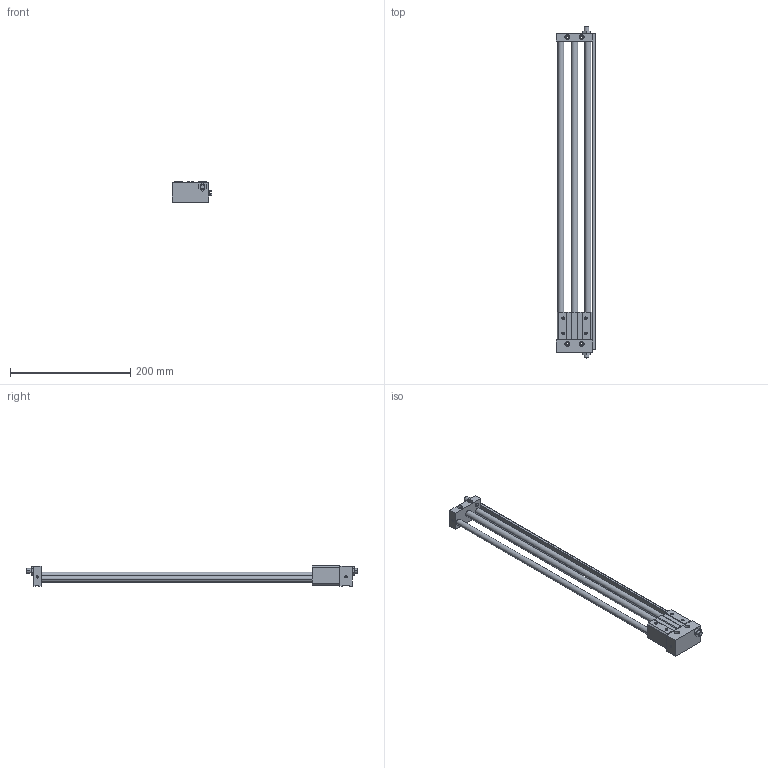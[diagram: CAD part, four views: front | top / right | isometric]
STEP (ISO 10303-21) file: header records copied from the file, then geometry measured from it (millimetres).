
FILE_DESCRIPTION((''),'2;1');
FILE_NAME('C:\Documents and Settings\Administrator\桌面\GYS\GYS10\GYSR10X450.stp','2012-03-05T10:10:38',('Administrator'),(''),'Autodesk Inventor 8','Autodesk Inventor 8','');
FILE_SCHEMA(('AUTOMOTIVE_DESIGN { 1 0 10303 214 1 1 1 1 }'));
Length unit declared in the file: millimetre
Products named in the file (3): GYSR10X450; GYS10X450; GYS10160X450
Assembly tree (2 placements, depth 2):
  GYSR10X450
    GYS10X450
    GYS10160X450
Bounding box: 65 x 552 x 34 mm (x, y, z)
Volume: 267022 mm3; surface area: 92451.8 mm2
Topology: 2 solids, 2 shells, 193 faces, 462 edges, 296 vertices
Faces by surface type: plane 97, cylinder 58, cone 32, bspline 6
Entity records: 5756 total; most frequent: CARTESIAN_POINT 1030, DIRECTION 1006, ORIENTED_EDGE 924, EDGE_CURVE 462, AXIS2_PLACEMENT_3D 352, VECTOR 302, LINE 302, VERTEX_POINT 296
